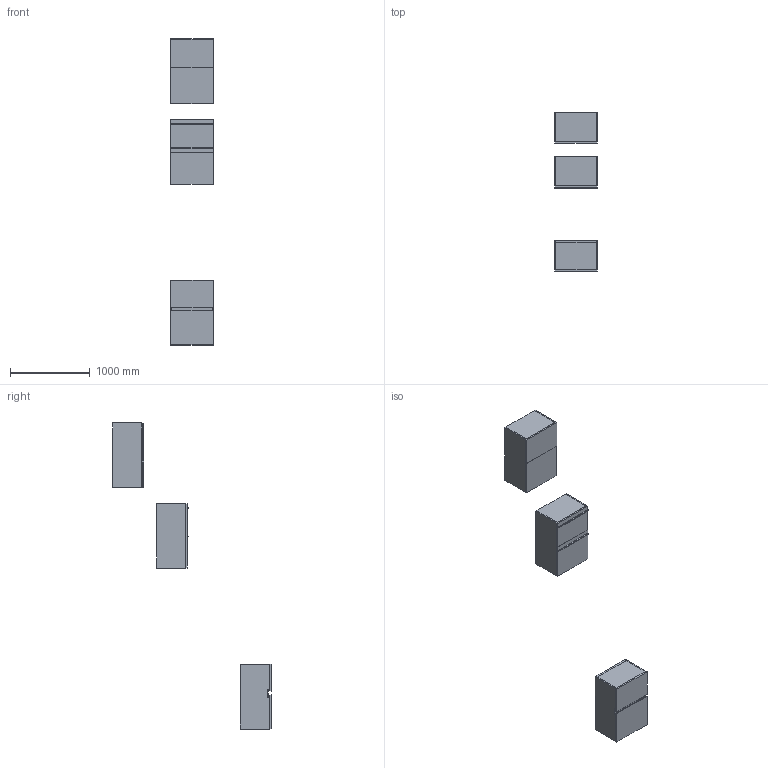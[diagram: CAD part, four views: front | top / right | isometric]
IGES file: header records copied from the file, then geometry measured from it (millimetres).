
Start section: Data from Parasolid IGES Translator 19.0.9, Copyright(c) 2006 Siemens PL M Software. All Rights Reserved.
Global section: file name: noorth-SI-H 81,2 D 38,8 W 54_8684.igs; native system: By Siemens PLM Incorporated; preprocessor: XPlus GENERIC/IGES 19.0.9; author: Noname; organization: Noname; date: 20200601.123206; units: metre
Bounding box: 540 x 1986 x 3842 mm (x, y, z)
Volume: 75585625.7 mm3; surface area: 11667527.4 mm2
Topology: 25 solids, 25 shells, 254 faces, 556 edges, 332 vertices
Faces by surface type: plane 170, extrusion 36, bspline 32, cylinder 16
